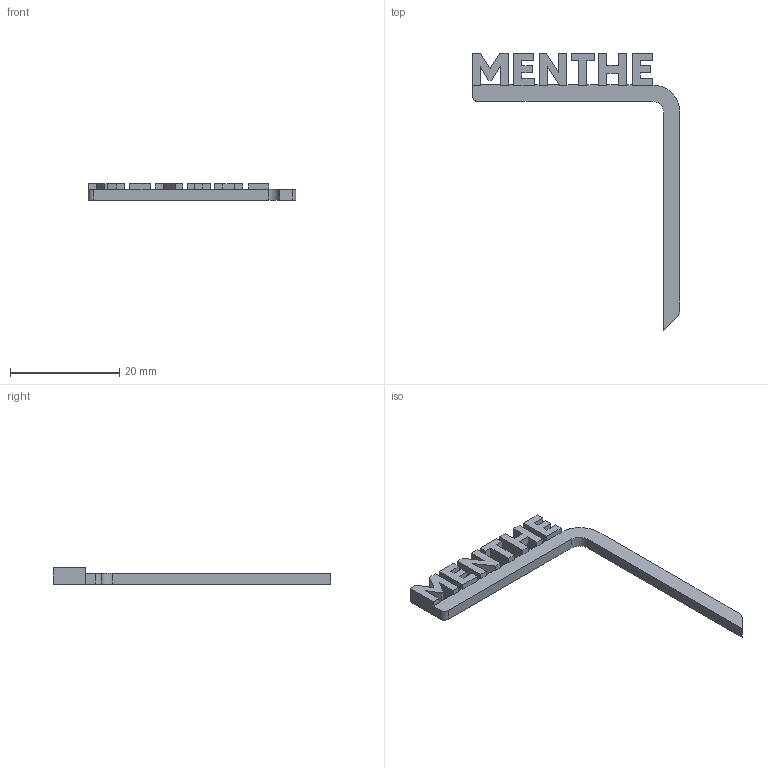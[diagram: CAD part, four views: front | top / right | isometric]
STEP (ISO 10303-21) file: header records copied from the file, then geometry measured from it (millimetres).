
FILE_DESCRIPTION(('STEP AP214'),'1');
FILE_NAME('Menthe.stp','2025-04-24T13:24:53',(' '),(' '),'Spatial InterOp 3D',' ',' ');
FILE_SCHEMA(('AUTOMOTIVE_DESIGN { 1 0 10303 214 1 1 1 1 }'));
Length unit declared in the file: millimetre
Products named in the file (1): Menthe
Bounding box: 38.05 x 50.84 x 3 mm (x, y, z)
Volume: 809.3 mm3; surface area: 1474.6 mm2
Topology: 1 solids, 1 shells, 92 faces, 279 edges, 186 vertices
Faces by surface type: plane 88, cylinder 4
Entity records: 3853 total; most frequent: CARTESIAN_POINT 558, ORIENTED_EDGE 558, DIRECTION 473, EDGE_CURVE 279, LINE 271, VECTOR 271, VERTEX_POINT 186, AXIS2_PLACEMENT_3D 101
